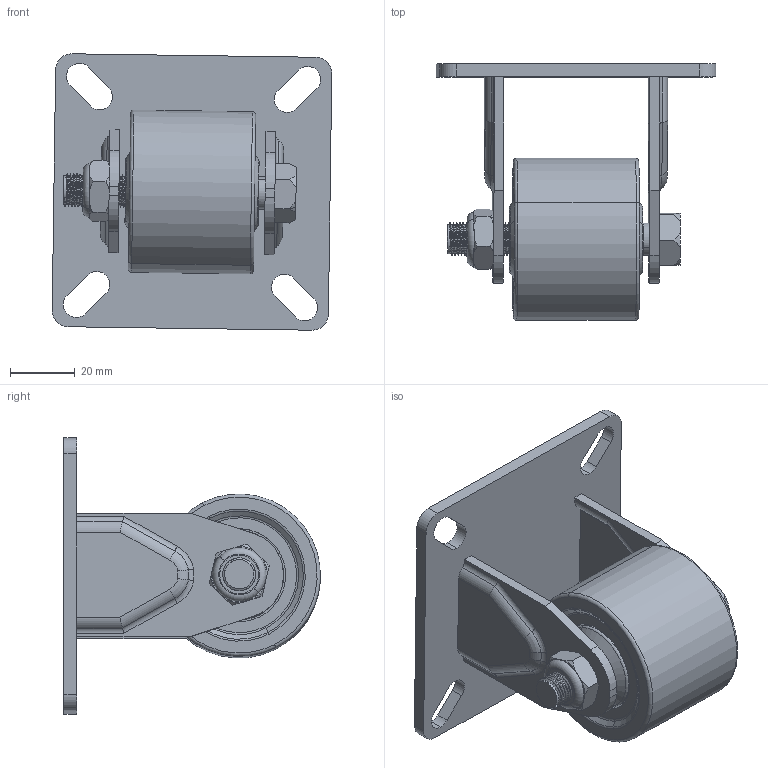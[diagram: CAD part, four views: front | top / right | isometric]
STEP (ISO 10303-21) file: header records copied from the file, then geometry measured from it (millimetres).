
FILE_DESCRIPTION (( 'STEP AP214' ), '1' );
FILE_NAME ('MXN50-F.step', '2024-01-17T23:01:13', ( '' ), ( '' ), 'SwSTEP 2.0', 'SolidWorks 2022', '' );
FILE_SCHEMA (( 'AUTOMOTIVE_DESIGN' ));
Length unit declared in the file: millimetre
Products named in the file (5): M10-Nyloc; M10X65; MXN50-F; MXN50
Assembly tree (4 placements, depth 2):
  MXN50-F
    M10X65
    M10-Nyloc
    MXN50
    MXN50-F
Bounding box: 86.03 x 78.96 x 85.05 mm (x, y, z)
Volume: 117553.8 mm3; surface area: 41631.1 mm2
Topology: 4 solids, 4 shells, 569 faces, 1536 edges, 1006 vertices
Faces by surface type: plane 259, cylinder 157, bspline 86, torus 38, cone 29
Entity records: 28574 total; most frequent: CARTESIAN_POINT 14157, ORIENTED_EDGE 3072, DIRECTION 2325, EDGE_CURVE 1536, VERTEX_POINT 1006, VECTOR 921, LINE 921, AXIS2_PLACEMENT_3D 702
